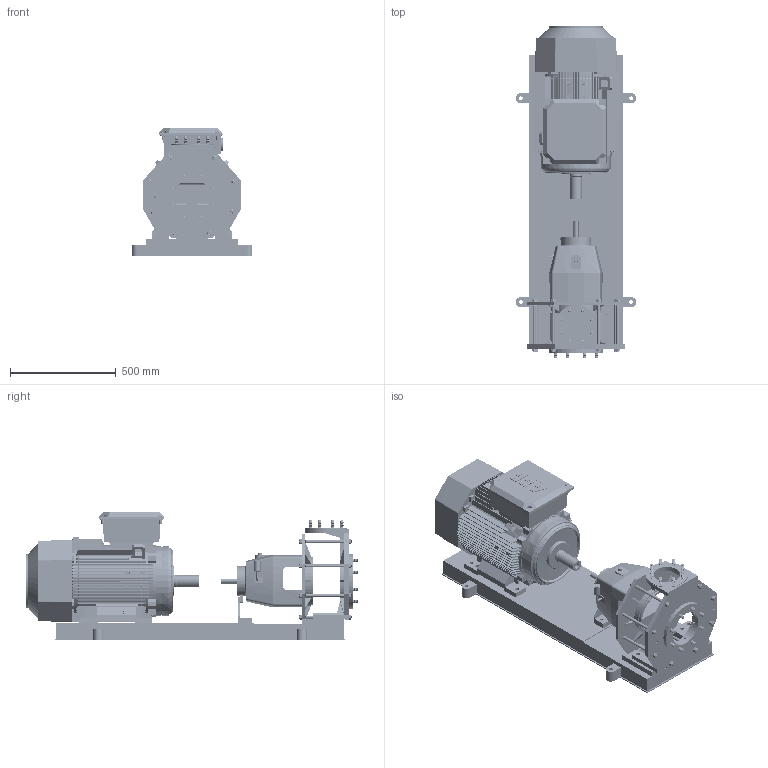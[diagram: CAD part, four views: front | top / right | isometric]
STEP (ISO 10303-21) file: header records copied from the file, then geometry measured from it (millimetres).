
FILE_DESCRIPTION((''),'2;1');
FILE_NAME('KSI 80-200--200 frame.stp','2010-08-04T13:57:03',(''),(''),'AutoCAD STEP 2000i','AutoCAD 2000i',', , ');
FILE_SCHEMA(('CONFIG_CONTROL_DESIGN'));
Length unit declared in the file: millimetre
Products named in the file (4): KSI 80-200--200 FRAME A; Motor; AnyA; Any
Assembly tree (1 placements, depth 2):
  KSI 80-200--200 FRAME A
    Motor
  AnyA
  Any
Bounding box: 570 x 1570.49 x 607.82 mm (x, y, z)
Volume: 153735024 mm3; surface area: 6715485.2 mm2
Topology: 54 solids, 54 shells, 10107 faces, 25364 edges, 15406 vertices
Faces by surface type: cone 3448, torus 3216, cylinder 1832, plane 1181, bspline 430
Entity records: 309487 total; most frequent: CARTESIAN_POINT 60924, DIRECTION 58541, ORIENTED_EDGE 50720, AXIS2_PLACEMENT_3D 25450, EDGE_CURVE 25360, CIRCLE 15771, VERTEX_POINT 15406, EDGE_LOOP 10352
